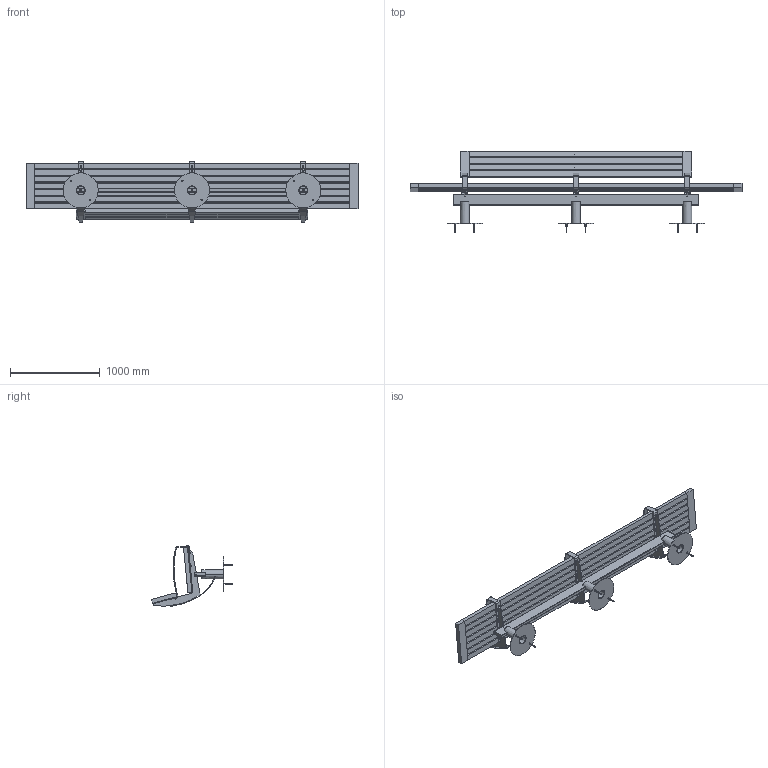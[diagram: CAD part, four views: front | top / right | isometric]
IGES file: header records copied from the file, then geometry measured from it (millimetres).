
Start section: SolidWorks IGES file using analytic representation for surfaces
Global section: file name: C:\SANTACOLE_PDM\Proyectos Catálogo\PROD-P05-013 -- NU\6_Técnico comercial\3D WEB\NU 3.70 con respaldo.IGS; native system: SolidWorks 2013; preprocessor: SolidWorks 2013; author: jordi.munoz; date: 150409.171530; units: millimetre
Bounding box: 3700 x 904.41 x 672.97 mm (x, y, z)
Volume: 107291715.5 mm3; surface area: 12404040.6 mm2
Topology: 140 solids, 140 shells, 5206 faces, 12868 edges, 8011 vertices
Faces by surface type: revolution 2713, plane 2167, bspline 326
